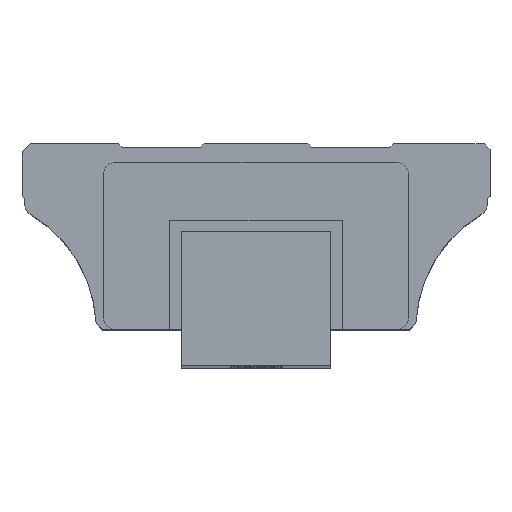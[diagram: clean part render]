
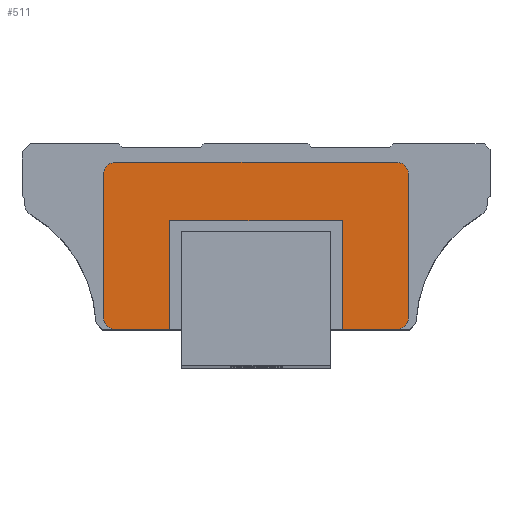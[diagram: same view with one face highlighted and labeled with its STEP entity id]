
A CAD part, top view. The second image highlights one B-rep face of the part: STEP entity #511.
In plain terms, the highlighted planar face has unit normal (0, 0, 1).
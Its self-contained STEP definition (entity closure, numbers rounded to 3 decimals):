
#511 = ADVANCED_FACE( '', ( #826 ), #827, .T. );
#826 = FACE_OUTER_BOUND( '', #1140, .T. );
#827 = PLANE( '', #1141 );
#1140 = EDGE_LOOP( '', ( #2295, #2296, #2297, #2298, #2299, #2300, #2301, #2302, #2303, #2304, #2305, #2306 ) );
#1141 = AXIS2_PLACEMENT_3D( '', #2307, #2308, #2309 );
#2295 = ORIENTED_EDGE( '', *, *, #2667, .F. );
#2296 = ORIENTED_EDGE( '', *, *, #2691, .F. );
#2297 = ORIENTED_EDGE( '', *, *, #2688, .F. );
#2298 = ORIENTED_EDGE( '', *, *, #2685, .F. );
#2299 = ORIENTED_EDGE( '', *, *, #2655, .F. );
#2300 = ORIENTED_EDGE( '', *, *, #2659, .F. );
#2301 = ORIENTED_EDGE( '', *, *, #2662, .F. );
#2302 = ORIENTED_EDGE( '', *, *, #2683, .F. );
#2303 = ORIENTED_EDGE( '', *, *, #2680, .F. );
#2304 = ORIENTED_EDGE( '', *, *, #2677, .F. );
#2305 = ORIENTED_EDGE( '', *, *, #2674, .F. );
#2306 = ORIENTED_EDGE( '', *, *, #2671, .F. );
#2307 = CARTESIAN_POINT( '', ( 9.26, 17.685, 148.9 ) );
#2308 = DIRECTION( '', ( 0., 0., 1. ) );
#2309 = DIRECTION( '', ( 1., 0., 0. ) );
#2655 = EDGE_CURVE( '', #3239, #3240, #3241, .T. );
#2659 = EDGE_CURVE( '', #3247, #3239, #3248, .T. );
#2662 = EDGE_CURVE( '', #3252, #3247, #3253, .T. );
#2667 = EDGE_CURVE( '', #3259, #3260, #3261, .T. );
#2671 = EDGE_CURVE( '', #3260, #3267, #3268, .T. );
#2674 = EDGE_CURVE( '', #3267, #3272, #3273, .T. );
#2677 = EDGE_CURVE( '', #3272, #3277, #3278, .T. );
#2680 = EDGE_CURVE( '', #3277, #3282, #3283, .T. );
#2683 = EDGE_CURVE( '', #3282, #3252, #3287, .T. );
#2685 = EDGE_CURVE( '', #3240, #3289, #3290, .T. );
#2688 = EDGE_CURVE( '', #3289, #3294, #3295, .T. );
#2691 = EDGE_CURVE( '', #3294, #3259, #3299, .T. );
#3239 = VERTEX_POINT( '', #4081 );
#3240 = VERTEX_POINT( '', #4082 );
#3241 = LINE( '', #4083, #4084 );
#3247 = VERTEX_POINT( '', #4093 );
#3248 = LINE( '', #4094, #4095 );
#3252 = VERTEX_POINT( '', #4101 );
#3253 = LINE( '', #4102, #4103 );
#3259 = VERTEX_POINT( '', #4113 );
#3260 = VERTEX_POINT( '', #4114 );
#3261 = CIRCLE( '', #4115, 1.514 );
#3267 = VERTEX_POINT( '', #4123 );
#3268 = LINE( '', #4124, #4125 );
#3272 = VERTEX_POINT( '', #4131 );
#3273 = CIRCLE( '', #4132, 1.5 );
#3277 = VERTEX_POINT( '', #4137 );
#3278 = LINE( '', #4138, #4139 );
#3282 = VERTEX_POINT( '', #4145 );
#3283 = CIRCLE( '', #4146, 1.5 );
#3287 = LINE( '', #4151, #4152 );
#3289 = VERTEX_POINT( '', #4155 );
#3290 = LINE( '', #4156, #4157 );
#3294 = VERTEX_POINT( '', #4163 );
#3295 = CIRCLE( '', #4164, 1.5 );
#3299 = LINE( '', #4169, #4170 );
#4081 = CARTESIAN_POINT( '', ( -2.34, 19.6, 148.9 ) );
#4082 = CARTESIAN_POINT( '', ( -2.34, 5., 148.9 ) );
#4083 = CARTESIAN_POINT( '', ( -2.34, 5., 148.9 ) );
#4084 = VECTOR( '', #4695, 1. );
#4093 = CARTESIAN_POINT( '', ( 20.86, 19.6, 148.9 ) );
#4094 = CARTESIAN_POINT( '', ( -2.34, 19.6, 148.9 ) );
#4095 = VECTOR( '', #4699, 1. );
#4101 = CARTESIAN_POINT( '', ( 20.86, 5., 148.9 ) );
#4102 = CARTESIAN_POINT( '', ( 20.86, 19.6, 148.9 ) );
#4103 = VECTOR( '', #4702, 1. );
#4113 = CARTESIAN_POINT( '', ( -11.24, 26.093, 148.9 ) );
#4114 = CARTESIAN_POINT( '', ( -9.74, 27.45, 148.9 ) );
#4115 = AXIS2_PLACEMENT_3D( '', #4707, #4708, #4709 );
#4123 = CARTESIAN_POINT( '', ( 28.26, 27.45, 148.9 ) );
#4124 = CARTESIAN_POINT( '', ( -9.74, 27.45, 148.9 ) );
#4125 = VECTOR( '', #4715, 1. );
#4131 = CARTESIAN_POINT( '', ( 29.76, 25.95, 148.9 ) );
#4132 = AXIS2_PLACEMENT_3D( '', #4718, #4719, #4720 );
#4137 = CARTESIAN_POINT( '', ( 29.76, 6.5, 148.9 ) );
#4138 = CARTESIAN_POINT( '', ( 29.76, 25.95, 148.9 ) );
#4139 = VECTOR( '', #4725, 1. );
#4145 = CARTESIAN_POINT( '', ( 28.26, 5., 148.9 ) );
#4146 = AXIS2_PLACEMENT_3D( '', #4728, #4729, #4730 );
#4151 = CARTESIAN_POINT( '', ( 20.86, 5., 148.9 ) );
#4152 = VECTOR( '', #4735, 1. );
#4155 = CARTESIAN_POINT( '', ( -9.74, 5., 148.9 ) );
#4156 = CARTESIAN_POINT( '', ( -9.74, 5., 148.9 ) );
#4157 = VECTOR( '', #4737, 1. );
#4163 = CARTESIAN_POINT( '', ( -11.24, 6.5, 148.9 ) );
#4164 = AXIS2_PLACEMENT_3D( '', #4740, #4741, #4742 );
#4169 = CARTESIAN_POINT( '', ( -11.24, 6.5, 148.9 ) );
#4170 = VECTOR( '', #4747, 1. );
#4695 = DIRECTION( '', ( 0., -1., 0. ) );
#4699 = DIRECTION( '', ( -1., 0., 0. ) );
#4702 = DIRECTION( '', ( 0., 1., 0. ) );
#4707 = CARTESIAN_POINT( '', ( -9.734, 25.936, 148.9 ) );
#4708 = DIRECTION( '', ( 0., 0., -1. ) );
#4709 = DIRECTION( '', ( 1., 0., 0. ) );
#4715 = DIRECTION( '', ( 1., 0., 0. ) );
#4718 = CARTESIAN_POINT( '', ( 28.26, 25.95, 148.9 ) );
#4719 = DIRECTION( '', ( 0., 0., -1. ) );
#4720 = DIRECTION( '', ( 1., 0., 0. ) );
#4725 = DIRECTION( '', ( 0., -1., 0. ) );
#4728 = CARTESIAN_POINT( '', ( 28.26, 6.5, 148.9 ) );
#4729 = DIRECTION( '', ( 0., 0., -1. ) );
#4730 = DIRECTION( '', ( 1., 0., 0. ) );
#4735 = DIRECTION( '', ( -1., 0., 0. ) );
#4737 = DIRECTION( '', ( -1., 0., 0. ) );
#4740 = CARTESIAN_POINT( '', ( -9.74, 6.5, 148.9 ) );
#4741 = DIRECTION( '', ( 0., 0., -1. ) );
#4742 = DIRECTION( '', ( 1., 0., 0. ) );
#4747 = DIRECTION( '', ( 0., 1., 0. ) );
